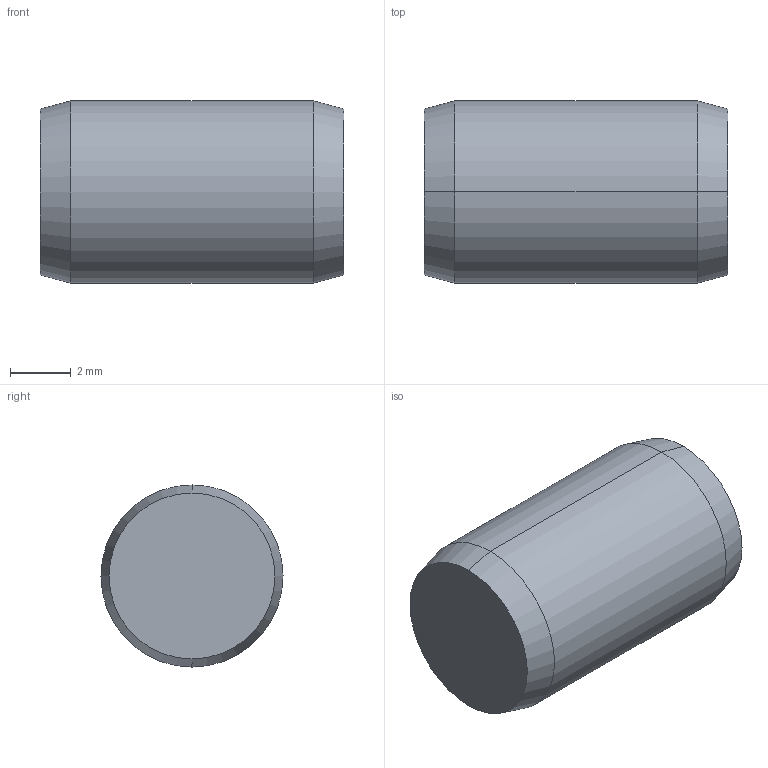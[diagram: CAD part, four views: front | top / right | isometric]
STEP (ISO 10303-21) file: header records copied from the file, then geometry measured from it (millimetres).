
FILE_DESCRIPTION (( 'STEP AP203' ), '1' );
FILE_NAME ('P1206.060-010 .step', '2017-06-14T08:19:06', ( 'User' ), ( '' ), 'SwSTEP 2.0', 'SolidWorks 2009', '' );
FILE_SCHEMA (( 'CONFIG_CONTROL_DESIGN' ));
Length unit declared in the file: millimetre
Products named in the file (1): P1206.060-010 
Bounding box: 10 x 6 x 6 mm (x, y, z)
Volume: 277.8 mm3; surface area: 235 mm2
Topology: 1 solids, 1 shells, 8 faces, 14 edges, 8 vertices
Faces by surface type: cone 4, cylinder 2, plane 2
Entity records: 271 total; most frequent: DIRECTION 40, CARTESIAN_POINT 31, ORIENTED_EDGE 28, AXIS2_PLACEMENT_3D 17, EDGE_CURVE 14, CIRCLE 8, FACE_OUTER_BOUND 8, PERSON_AND_ORGANIZATION 8
